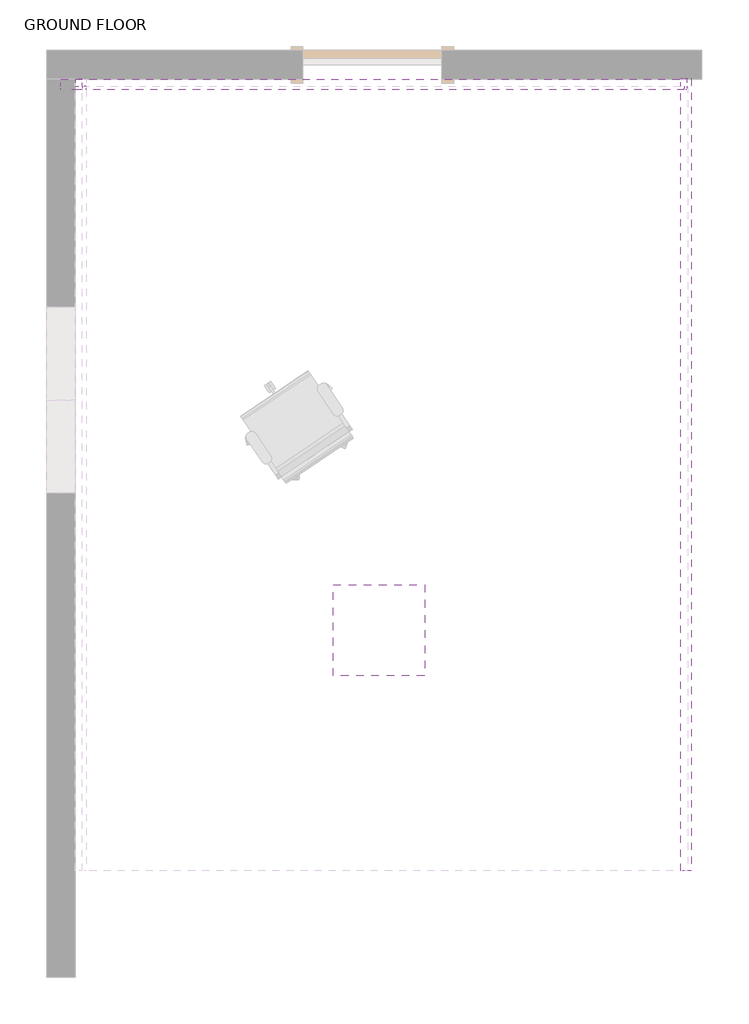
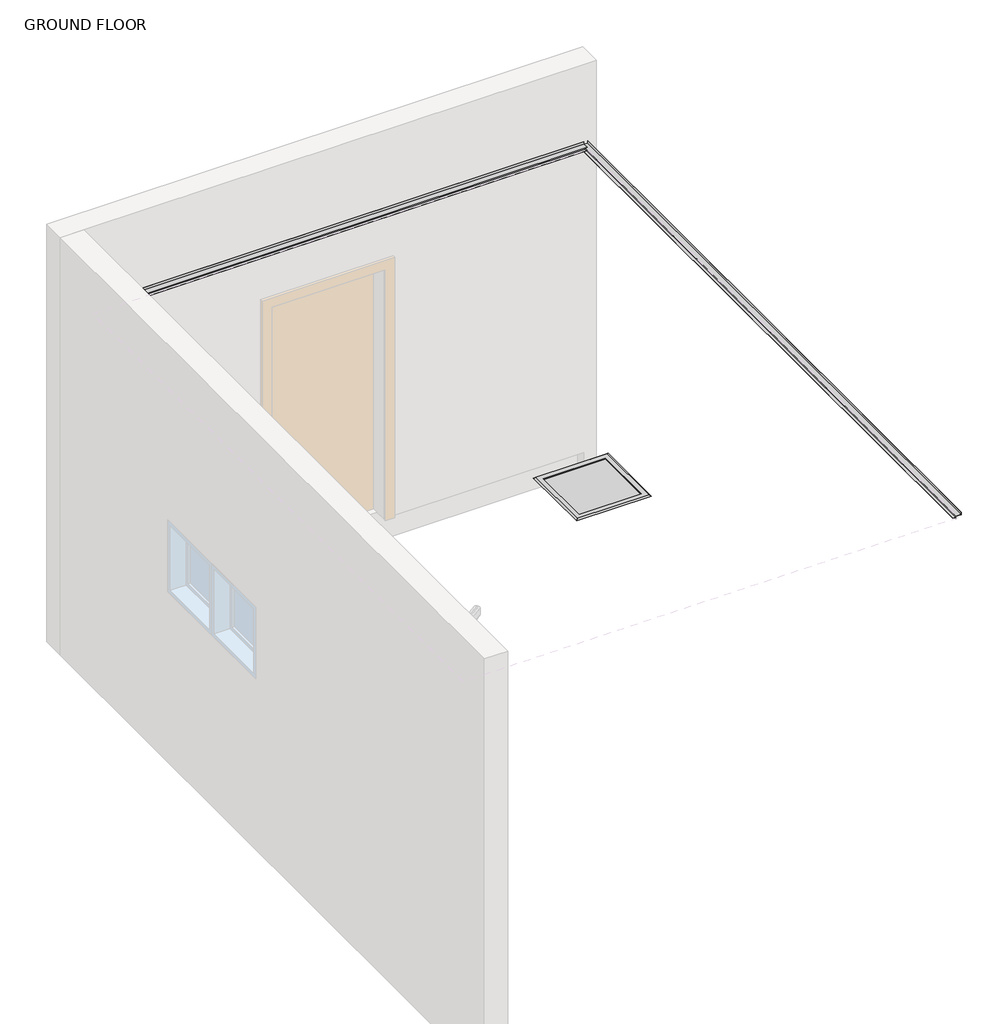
# One storey, part 2 of 2: 3 proxies.
"""IFC4 building model written with IfcOpenShell, lengths in millimetres."""

from ifc_helpers import new_model, si_unit, point, frame, frame_2d, origin, place, context, project, spatial, polyline, circle_curve, trimmed, segment, composite_curve, outline, extrude, faceted_brep, element, save

model = new_model("IFC4")

# Units and contexts
model_context = context("Model", 3, world=origin())
ifc_project = project(units=[si_unit("LENGTHUNIT", "METRE", prefix="MILLI")], contexts=[model_context])

# Site, building, storey
site = spatial("IfcSite", under=ifc_project)
building = spatial("IfcBuilding", under=site)
storey = spatial("IfcBuildingStorey", under=building, Name="GROUND FLOOR", Elevation=0.0)

# Proxies
placement = place(None, origin())
element("IfcBuildingElementProxy", 1, Name="Flushline Outer Frame : Flushline Outer Frame", ObjectType="Flushline Outer Frame : Flushline Outer Frame", at=placement, inside=storey, context=model_context, shape_type="SolidModel", body=[
    faceted_brep([(129682.6212716, 38849.9489557, 2611.475), (129682.6212716, 38339.2489557, 2611.475), (130193.3212716, 38339.2489557, 2611.475), (130193.3212716, 38849.9489557, 2611.475), (129688.9712716, 38843.5989557, 2611.475), (130186.9712716, 38843.5989557, 2611.475), (130186.9712716, 38345.5989557, 2611.475), (129688.9712716, 38345.5989557, 2611.475), (129682.6212716, 38849.9489557, 2600.0), (130193.3212716, 38849.9489557, 2600.0), (130193.3212716, 38339.2489557, 2600.0), (129682.6212716, 38339.2489557, 2600.0), (129688.9712716, 38843.5989557, 2600.0), (129688.9712716, 38345.5989557, 2600.0), (130186.9712716, 38345.5989557, 2600.0), (130186.9712716, 38843.5989557, 2600.0), (129682.6212716, 38849.9489557, 2611.0), (129682.6212716, 38339.2489557, 2611.0), (130193.3212716, 38339.2489557, 2611.0), (130193.3212716, 38849.9489557, 2611.0)], [[[0, 1, 2, 3], [4, 5, 6, 7]], [[8, 9, 10, 11], [12, 13, 14, 15]], [[5, 4, 12, 15]], [[6, 5, 15, 14]], [[7, 6, 14, 13]], [[4, 7, 13, 12]], [[1, 0, 16, 8, 11, 17]], [[2, 1, 17, 11, 10, 18]], [[3, 2, 18, 10, 9, 19]], [[0, 3, 19, 9, 8, 16]]]),
    extrude(outline(polyline([(129688.9712716, 38843.5989557), (130186.9712716, 38843.5989557), (130186.9712716, 38345.5989557), (129688.9712716, 38345.5989557), (129688.9712716, 38843.5989557)])), frame((0.0, 0.0, 2600.0), z_axis=(0.0, 0.0, 1.0), x_axis=(1.0, 0.0, 0.0)), (0.0, 0.0, 1.0), 11.475),
    faceted_brep([(129688.9712716, 38843.5989557, 2621.0), (129688.9712716, 38843.5989557, 2611.475), (130186.9712716, 38843.5989557, 2611.475), (130186.9712716, 38843.5989557, 2621.0), (130186.9712716, 38345.5989557, 2611.475), (130186.9712716, 38345.5989557, 2621.0), (129688.9712716, 38345.5989557, 2611.475), (129688.9712716, 38345.5989557, 2621.0), (130237.7712716, 38894.3989557, 2611.475), (130237.7712716, 38294.7989557, 2611.475), (129638.1712716, 38294.7989557, 2611.475), (129638.1712716, 38894.3989557, 2611.475), (129650.8712716, 38881.6989557, 2621.0), (129650.8712716, 38307.4989557, 2621.0), (130225.0712716, 38307.4989557, 2621.0), (130225.0712716, 38881.6989557, 2621.0)], [[[0, 1, 2, 3]], [[3, 2, 4, 5]], [[5, 4, 6, 7]], [[8, 9, 10, 11], [1, 6, 4, 2]], [[12, 13, 14, 15], [3, 5, 7, 0]], [[7, 6, 1, 0]], [[11, 12, 15, 8]], [[8, 15, 14, 9]], [[9, 14, 13, 10]], [[10, 13, 12, 11]]]),
    extrude(outline(composite_curve([segment(trimmed(circle_curve(frame_2d((129778.9712716, 38411.9489557)), 10.0), [point((129778.9712716, 38401.9489557))], [point((129778.9712716, 38421.9489557))], False, "CARTESIAN"), True, "CONTINUOUS"), segment(trimmed(circle_curve(frame_2d((129778.9712716, 38411.9489557)), 10.0), [point((129778.9712716, 38421.9489557))], [point((129778.9712716, 38401.9489557))], False, "CARTESIAN"), True, "CONTINUOUS")], self_intersect=False)), frame((0.0, 0.0, 2593.65), z_axis=(0.0, 0.0, 1.0), x_axis=(1.0, 0.0, 0.0)), (0.0, 0.0, 1.0), 6.35),
    extrude(outline(composite_curve([segment(trimmed(circle_curve(frame_2d((130096.9712716, 38411.9489557)), 10.0), [point((130096.9712716, 38401.9489557))], [point((130096.9712716, 38421.9489557))], False, "CARTESIAN"), True, "CONTINUOUS"), segment(trimmed(circle_curve(frame_2d((130096.9712716, 38411.9489557)), 10.0), [point((130096.9712716, 38421.9489557))], [point((130096.9712716, 38401.9489557))], False, "CARTESIAN"), True, "CONTINUOUS")], self_intersect=False)), frame((0.0, 0.0, 2593.65), z_axis=(0.0, 0.0, 1.0), x_axis=(1.0, 0.0, 0.0)), (0.0, 0.0, 1.0), 6.35),
])
element("IfcBuildingElementProxy", 2, Name="TR04 : Trims Pelican Systems Plaster Trim 45 x 20", ObjectType="TR04 : Trims Pelican Systems Plaster Trim 45 x 20", at=placement, inside=storey, context=model_context, shape_type="Brep", body=[
    faceted_brep([(131960.7345529, 42147.9193804, 2612.0), (131960.7345529, 42147.9193804, 2611.0), (131960.7345529, 42171.9193804, 2611.0), (131960.7345529, 42171.9193804, 2600.0), (131960.7345529, 42172.9193804, 2600.0), (131960.7345529, 42172.9193804, 2619.0), (131960.7345529, 42171.9193804, 2619.0), (131960.7345529, 42171.9193804, 2612.0), (131946.7345529, 42172.9193804, 2600.0), (131946.7345529, 42172.9193804, 2619.0), (131946.7345529, 42171.9193804, 2600.0), (131946.7345529, 42171.9193804, 2619.0), (131946.7345529, 42171.9193804, 2612.0), (131946.7345529, 42147.9193804, 2611.0), (131946.7345529, 42171.9193804, 2611.0), (131946.7345529, 42147.9193804, 2612.0)], [[[0, 1, 2, 3, 4, 5, 6, 7]], [[5, 4, 8, 9]], [[4, 3, 10, 8]], [[7, 6, 11, 12]], [[2, 1, 13, 14]], [[1, 0, 15, 13]], [[0, 7, 12, 15]], [[3, 2, 14, 10]], [[9, 11, 6, 5]], [[11, 9, 8, 10, 14, 13, 15, 12]]]),
    faceted_brep([(127847.7345529, 42217.9193804, 2641.0), (127847.7345529, 42217.9193804, 2620.0), (127847.7345529, 42172.9193804, 2620.0), (127847.7345529, 42172.9193804, 2600.0), (127847.7345529, 42171.9193804, 2600.0), (127847.7345529, 42171.9193804, 2611.0), (127847.7345529, 42147.9193804, 2611.0), (127847.7345529, 42147.9193804, 2612.0), (127847.7345529, 42171.9193804, 2612.0), (127847.7345529, 42171.9193804, 2621.0), (127847.7345529, 42216.9193804, 2621.0), (127847.7345529, 42216.9193804, 2641.0), (131960.7345529, 42217.9193804, 2641.0), (131960.7345529, 42217.9193804, 2620.0), (131960.7345529, 42171.9193804, 2620.0), (131945.7345529, 42171.9193804, 2620.0), (131945.7345529, 42172.9193804, 2620.0), (127988.7345529, 42172.9193804, 2620.0), (127988.7345529, 42216.9193804, 2620.0), (127987.7345529, 42216.9193804, 2620.0), (127942.7345529, 42216.9193804, 2620.0), (127942.7345529, 42172.9193804, 2620.0), (131960.7345529, 42171.9193804, 2621.0), (131960.7345529, 42216.9193804, 2621.0), (127988.7345529, 42216.9193804, 2621.0), (127988.7345529, 42171.9193804, 2621.0), (131960.7345529, 42216.9193804, 2641.0), (127942.7345529, 42216.9193804, 2641.0), (127943.7345529, 42216.9193804, 2641.0), (127942.7345529, 42216.9193804, 2621.0), (127987.7345529, 42172.9193804, 2620.0), (127987.7345529, 42171.9193804, 2620.0), (127987.7345529, 42171.9193804, 2612.0), (127987.7345529, 42147.9193804, 2612.0), (127987.7345529, 42147.9193804, 2611.0), (127987.7345529, 42171.9193804, 2611.0), (127987.7345529, 42171.9193804, 2600.0), (127987.7345529, 42172.9193804, 2600.0), (127988.7345529, 42172.9193804, 2612.0), (127988.7345529, 42171.9193804, 2612.0), (127988.7345529, 42172.9193804, 2611.0), (127988.7345529, 42171.9193804, 2611.0), (128012.7345529, 42171.9193804, 2611.0), (128012.7345529, 42172.9193804, 2611.0), (128012.7345529, 42147.9193804, 2611.0), (128012.7345529, 42147.9193804, 2612.0), (128012.7345529, 42171.9193804, 2612.0), (128012.7345529, 42172.9193804, 2612.0), (127988.7345529, 42172.9193804, 2600.0), (127988.7345529, 42171.9193804, 2600.0), (131945.7345529, 42171.9193804, 2610.0), (131945.7345529, 42172.9193804, 2610.0), (131921.7345529, 42172.9193804, 2610.0), (131921.7345529, 42171.9193804, 2610.0), (131921.7345529, 42172.9193804, 2611.0), (131921.7345529, 42171.9193804, 2611.0), (131945.7345529, 42147.9193804, 2611.0), (131945.7345529, 42172.9193804, 2611.0), (131945.7345529, 42171.9193804, 2612.0), (131945.7345529, 42147.9193804, 2612.0), (131945.7345529, 42171.9193804, 2600.0), (131945.7345529, 42172.9193804, 2600.0), (127942.7345529, 42171.9193804, 2621.0), (127942.7345529, 42171.9193804, 2620.0)], [[[0, 1, 2, 3, 4, 5, 6, 7, 8, 9, 10, 11]], [[12, 13, 1, 0]], [[14, 15, 16, 17, 18, 19, 20, 21, 2, 1, 13]], [[22, 23, 24, 25]], [[26, 12, 0, 11, 27, 28]], [[23, 26, 28, 27, 11, 10, 29, 20, 19, 18, 24]], [[30, 31, 32, 33, 34, 35, 36, 37]], [[24, 18, 17, 38, 39, 25]], [[40, 41, 42, 43]], [[43, 42, 44, 45, 46, 47]], [[39, 38, 47, 46]], [[41, 40, 48, 49]], [[50, 51, 52, 53]], [[53, 52, 54, 55]], [[56, 57, 16, 15, 58, 59]], [[51, 50, 60, 61]], [[12, 26, 23, 22, 14, 13]], [[38, 17, 16, 57, 54, 52, 51, 61, 48, 40, 43, 47]], [[49, 48, 61, 60]], [[22, 25, 39, 46, 58, 15, 14]], [[44, 42, 55, 54, 57, 56]], [[45, 44, 56, 59]], [[46, 45, 59, 58]], [[42, 41, 49, 60, 50, 53, 55]], [[20, 29, 62, 63, 21]], [[31, 30, 21, 63]], [[3, 2, 21, 30, 37]], [[4, 3, 37, 36]], [[9, 8, 32, 31, 63, 62]], [[6, 5, 35, 34]], [[7, 6, 34, 33]], [[8, 7, 33, 32]], [[10, 9, 62, 29]], [[5, 4, 36, 35]]]),
])
element("IfcBuildingElementProxy", 3, Name="TR04 : Trims Pelican Systems Plaster Trim 45 x 20", ObjectType="TR04 : Trims Pelican Systems Plaster Trim 45 x 20", at=placement, inside=storey, context=model_context, shape_type="Brep", body=[
    faceted_brep([(131991.7345529, 37012.9193804, 2640.0), (131990.7345529, 37012.9193804, 2640.0), (131990.7345529, 37012.9193804, 2620.0), (131945.7345529, 37012.9193804, 2620.0), (131945.7345529, 37012.9193804, 2611.0), (131921.7345529, 37012.9193804, 2611.0), (131921.7345529, 37012.9193804, 2610.0), (131945.7345529, 37012.9193804, 2610.0), (131945.7345529, 37012.9193804, 2599.0), (131946.7345529, 37012.9193804, 2599.0), (131946.7345529, 37012.9193804, 2619.0), (131991.7345529, 37012.9193804, 2619.0), (131991.7345529, 42222.9193804, 2640.0), (131991.7345529, 42222.9193804, 2619.0), (131946.7345529, 42222.9193804, 2619.0), (131946.7345529, 42222.9193804, 2599.0), (131945.7345529, 42222.9193804, 2599.0), (131945.7345529, 42222.9193804, 2610.0), (131921.7345529, 42222.9193804, 2610.0), (131921.7345529, 42222.9193804, 2611.0), (131945.7345529, 42222.9193804, 2611.0), (131945.7345529, 42222.9193804, 2620.0), (131990.7345529, 42222.9193804, 2620.0), (131990.7345529, 42222.9193804, 2640.0), (131946.7345529, 42171.9193804, 2619.0), (131946.7345529, 42172.9193804, 2619.0), (131921.7345529, 42171.9193804, 2610.0), (131921.7345529, 42172.9193804, 2610.0), (131945.7345529, 42172.9193804, 2610.0), (131945.7345529, 42171.9193804, 2610.0), (131921.7345529, 42171.9193804, 2611.0), (131921.7345529, 42172.9193804, 2611.0), (131945.7345529, 42147.9193804, 2611.0), (131945.7345529, 42172.9193804, 2611.0), (131945.7345529, 42171.9193804, 2620.0), (131945.7345529, 42172.9193804, 2620.0)], [[[0, 1, 2, 3, 4, 5, 6, 7, 8, 9, 10, 11]], [[12, 13, 14, 15, 16, 17, 18, 19, 20, 21, 22, 23]], [[11, 13, 12, 0]], [[10, 24, 25, 14, 13, 11]], [[9, 15, 14, 25, 24, 10]], [[8, 16, 15, 9]], [[6, 26, 27, 18, 17, 28, 29, 7]], [[5, 30, 31, 19, 18, 27, 26, 6]], [[4, 32, 33, 20, 19, 31, 30, 5]], [[3, 34, 35, 21, 20, 33, 32, 4]], [[2, 22, 21, 35, 34, 3]], [[1, 23, 22, 2]], [[0, 12, 23, 1]], [[7, 29, 28, 17, 16, 8]]]),
])

save(model, "model.ifc")
